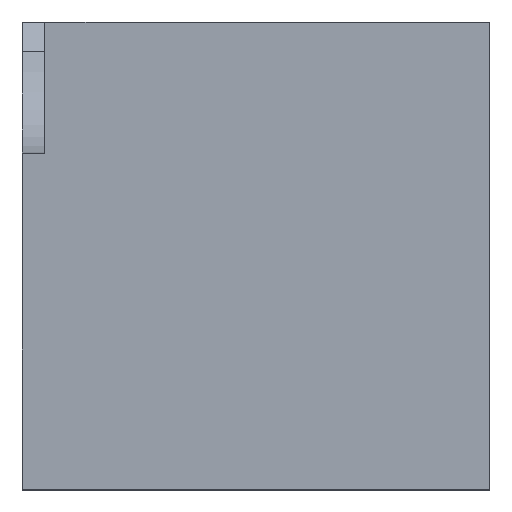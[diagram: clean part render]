
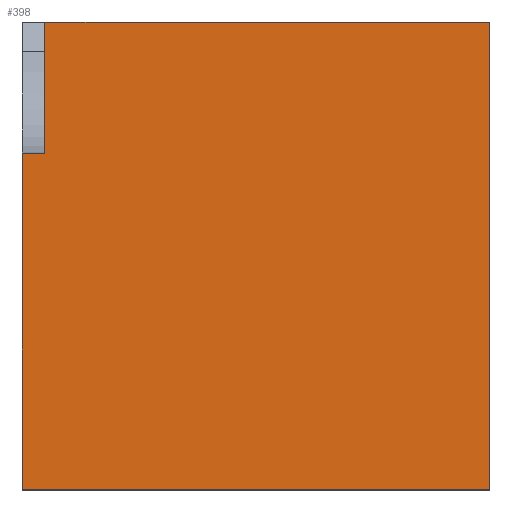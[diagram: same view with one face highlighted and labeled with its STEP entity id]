
A CAD part, top view. The second image highlights one B-rep face of the part: STEP entity #398.
In plain terms, the highlighted planar face has unit normal (0, 0, 1).
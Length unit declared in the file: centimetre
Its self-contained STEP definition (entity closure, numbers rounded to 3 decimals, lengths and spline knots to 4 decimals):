
#5 = CARTESIAN_POINT ( 'NONE',  ( 48.3511, 718.5046, 1000. ) ) ;
#23 = LINE ( 'NONE', #802, #247 ) ;
#48 = CARTESIAN_POINT ( 'NONE',  ( 0., 1000., 1000. ) ) ;
#61 = VECTOR ( 'NONE', #614, 100. ) ;
#100 = CARTESIAN_POINT ( 'NONE',  ( 1000., 1000., 1000. ) ) ;
#110 = CARTESIAN_POINT ( 'NONE',  ( 48.3511, 718.5046, 1000. ) ) ;
#163 = CARTESIAN_POINT ( 'NONE',  ( 0., 0., 1000. ) ) ;
#165 = VECTOR ( 'NONE', #491, 100. ) ;
#173 = VECTOR ( 'NONE', #448, 100. ) ;
#175 = EDGE_CURVE ( 'NONE', #454, #207, #494, .T. ) ;
#176 = DIRECTION ( 'NONE',  ( 1., 0., 0. ) ) ;
#199 = CARTESIAN_POINT ( 'NONE',  ( 0., 718.5046, 1000. ) ) ;
#207 = VERTEX_POINT ( 'NONE', #100 ) ;
#229 = EDGE_CURVE ( 'NONE', #294, #454, #684, .T. ) ;
#247 = VECTOR ( 'NONE', #737, 100. ) ;
#256 = PLANE ( 'NONE',  #730 ) ;
#273 = EDGE_CURVE ( 'NONE', #335, #414, #804, .T. ) ;
#294 = VERTEX_POINT ( 'NONE', #334 ) ;
#319 = ORIENTED_EDGE ( 'NONE', *, *, #229, .T. ) ;
#334 = CARTESIAN_POINT ( 'NONE',  ( 0., 0., 1000. ) ) ;
#335 = VERTEX_POINT ( 'NONE', #199 ) ;
#361 = DIRECTION ( 'NONE',  ( 0., 1., 0. ) ) ;
#365 = VECTOR ( 'NONE', #361, 100. ) ;
#384 = EDGE_LOOP ( 'NONE', ( #745, #685, #319, #626, #580, #811 ) ) ;
#398 = ADVANCED_FACE ( 'NONE', ( #694 ), #256, .T. ) ;
#404 = VECTOR ( 'NONE', #176, 100. ) ;
#412 = EDGE_CURVE ( 'NONE', #612, #414, #556, .T. ) ;
#414 = VERTEX_POINT ( 'NONE', #5 ) ;
#421 = DIRECTION ( 'NONE',  ( 0., 0., 1. ) ) ;
#448 = DIRECTION ( 'NONE',  ( 1., 0., 0. ) ) ;
#454 = VERTEX_POINT ( 'NONE', #725 ) ;
#485 = EDGE_CURVE ( 'NONE', #335, #294, #23, .T. ) ;
#491 = DIRECTION ( 'NONE',  ( 0., -1., 0. ) ) ;
#494 = LINE ( 'NONE', #778, #365 ) ;
#556 = LINE ( 'NONE', #624, #165 ) ;
#580 = ORIENTED_EDGE ( 'NONE', *, *, #724, .T. ) ;
#612 = VERTEX_POINT ( 'NONE', #810 ) ;
#614 = DIRECTION ( 'NONE',  ( -1., 0., 0. ) ) ;
#624 = CARTESIAN_POINT ( 'NONE',  ( 48.3511, 0., 1000. ) ) ;
#626 = ORIENTED_EDGE ( 'NONE', *, *, #175, .T. ) ;
#639 = DIRECTION ( 'NONE',  ( 1., 0., 0. ) ) ;
#684 = LINE ( 'NONE', #163, #173 ) ;
#685 = ORIENTED_EDGE ( 'NONE', *, *, #485, .T. ) ;
#694 = FACE_OUTER_BOUND ( 'NONE', #384, .T. ) ;
#703 = CARTESIAN_POINT ( 'NONE',  ( 0., 0., 1000. ) ) ;
#724 = EDGE_CURVE ( 'NONE', #207, #612, #742, .T. ) ;
#725 = CARTESIAN_POINT ( 'NONE',  ( 1000., 0., 1000. ) ) ;
#730 = AXIS2_PLACEMENT_3D ( 'NONE', #703, #421, #639 ) ;
#737 = DIRECTION ( 'NONE',  ( 0., -1., 0. ) ) ;
#742 = LINE ( 'NONE', #48, #61 ) ;
#745 = ORIENTED_EDGE ( 'NONE', *, *, #273, .F. ) ;
#778 = CARTESIAN_POINT ( 'NONE',  ( 1000., 1000., 1000. ) ) ;
#802 = CARTESIAN_POINT ( 'NONE',  ( 0., 1000., 1000. ) ) ;
#804 = LINE ( 'NONE', #110, #404 ) ;
#810 = CARTESIAN_POINT ( 'NONE',  ( 48.3511, 1000., 1000. ) ) ;
#811 = ORIENTED_EDGE ( 'NONE', *, *, #412, .T. ) ;
